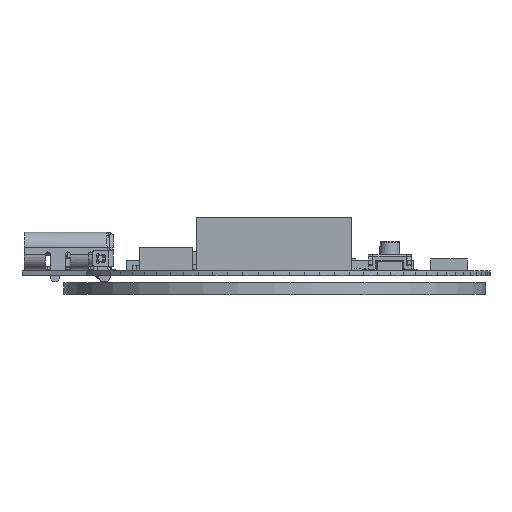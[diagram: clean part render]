
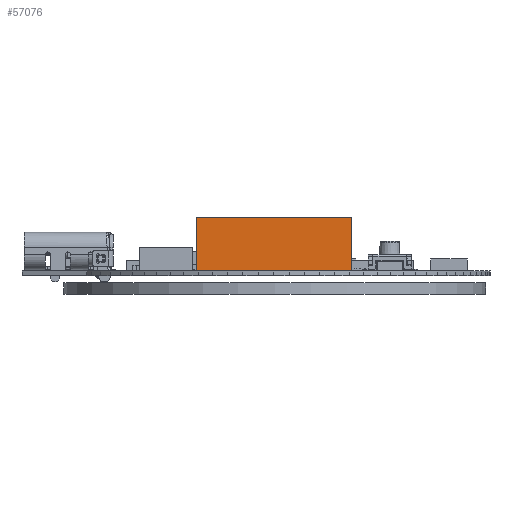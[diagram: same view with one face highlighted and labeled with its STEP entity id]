
A CAD part, left-side view. The second image highlights one B-rep face of the part: STEP entity #57076.
In plain terms, the highlighted planar face has unit normal (-1, 0, 0).
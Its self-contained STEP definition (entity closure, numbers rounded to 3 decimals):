
#57076 = ADVANCED_FACE('',(#57077),#57091,.T.);
#57077 = FACE_BOUND('',#57078,.T.);
#57078 = EDGE_LOOP('',(#57079,#57114,#57142,#57170));
#57079 = ORIENTED_EDGE('',*,*,#57080,.T.);
#57080 = EDGE_CURVE('',#57081,#57083,#57085,.T.);
#57081 = VERTEX_POINT('',#57082);
#57082 = CARTESIAN_POINT('',(-1.5,-6.55,0.));
#57083 = VERTEX_POINT('',#57084);
#57084 = CARTESIAN_POINT('',(-1.5,-6.55,4.5));
#57085 = SURFACE_CURVE('',#57086,(#57090,#57102),.PCURVE_S1.);
#57086 = LINE('',#57087,#57088);
#57087 = CARTESIAN_POINT('',(-1.5,-6.55,0.));
#57088 = VECTOR('',#57089,1.);
#57089 = DIRECTION('',(0.,0.,1.));
#57090 = PCURVE('',#57091,#57096);
#57091 = PLANE('',#57092);
#57092 = AXIS2_PLACEMENT_3D('',#57093,#57094,#57095);
#57093 = CARTESIAN_POINT('',(-1.5,-6.55,0.));
#57094 = DIRECTION('',(-1.,0.,0.));
#57095 = DIRECTION('',(0.,1.,0.));
#57096 = DEFINITIONAL_REPRESENTATION('',(#57097),#57101);
#57097 = LINE('',#57098,#57099);
#57098 = CARTESIAN_POINT('',(0.,0.));
#57099 = VECTOR('',#57100,1.);
#57100 = DIRECTION('',(0.,-1.));
#57101 = ( GEOMETRIC_REPRESENTATION_CONTEXT(2) 
PARAMETRIC_REPRESENTATION_CONTEXT() REPRESENTATION_CONTEXT('2D SPACE',''
  ) );
#57102 = PCURVE('',#57103,#57108);
#57103 = PLANE('',#57104);
#57104 = AXIS2_PLACEMENT_3D('',#57105,#57106,#57107);
#57105 = CARTESIAN_POINT('',(1.5,-6.55,0.));
#57106 = DIRECTION('',(0.,-1.,0.));
#57107 = DIRECTION('',(-1.,0.,0.));
#57108 = DEFINITIONAL_REPRESENTATION('',(#57109),#57113);
#57109 = LINE('',#57110,#57111);
#57110 = CARTESIAN_POINT('',(3.,0.));
#57111 = VECTOR('',#57112,1.);
#57112 = DIRECTION('',(0.,-1.));
#57113 = ( GEOMETRIC_REPRESENTATION_CONTEXT(2) 
PARAMETRIC_REPRESENTATION_CONTEXT() REPRESENTATION_CONTEXT('2D SPACE',''
  ) );
#57114 = ORIENTED_EDGE('',*,*,#57115,.T.);
#57115 = EDGE_CURVE('',#57083,#57116,#57118,.T.);
#57116 = VERTEX_POINT('',#57117);
#57117 = CARTESIAN_POINT('',(-1.5,6.55,4.5));
#57118 = SURFACE_CURVE('',#57119,(#57123,#57130),.PCURVE_S1.);
#57119 = LINE('',#57120,#57121);
#57120 = CARTESIAN_POINT('',(-1.5,-6.55,4.5));
#57121 = VECTOR('',#57122,1.);
#57122 = DIRECTION('',(0.,1.,0.));
#57123 = PCURVE('',#57091,#57124);
#57124 = DEFINITIONAL_REPRESENTATION('',(#57125),#57129);
#57125 = LINE('',#57126,#57127);
#57126 = CARTESIAN_POINT('',(0.,-4.5));
#57127 = VECTOR('',#57128,1.);
#57128 = DIRECTION('',(1.,0.));
#57129 = ( GEOMETRIC_REPRESENTATION_CONTEXT(2) 
PARAMETRIC_REPRESENTATION_CONTEXT() REPRESENTATION_CONTEXT('2D SPACE',''
  ) );
#57130 = PCURVE('',#57131,#57136);
#57131 = PLANE('',#57132);
#57132 = AXIS2_PLACEMENT_3D('',#57133,#57134,#57135);
#57133 = CARTESIAN_POINT('',(-1.5,-6.55,4.5));
#57134 = DIRECTION('',(0.,0.,1.));
#57135 = DIRECTION('',(1.,0.,0.));
#57136 = DEFINITIONAL_REPRESENTATION('',(#57137),#57141);
#57137 = LINE('',#57138,#57139);
#57138 = CARTESIAN_POINT('',(0.,0.));
#57139 = VECTOR('',#57140,1.);
#57140 = DIRECTION('',(0.,1.));
#57141 = ( GEOMETRIC_REPRESENTATION_CONTEXT(2) 
PARAMETRIC_REPRESENTATION_CONTEXT() REPRESENTATION_CONTEXT('2D SPACE',''
  ) );
#57142 = ORIENTED_EDGE('',*,*,#57143,.F.);
#57143 = EDGE_CURVE('',#57144,#57116,#57146,.T.);
#57144 = VERTEX_POINT('',#57145);
#57145 = CARTESIAN_POINT('',(-1.5,6.55,0.));
#57146 = SURFACE_CURVE('',#57147,(#57151,#57158),.PCURVE_S1.);
#57147 = LINE('',#57148,#57149);
#57148 = CARTESIAN_POINT('',(-1.5,6.55,0.));
#57149 = VECTOR('',#57150,1.);
#57150 = DIRECTION('',(0.,0.,1.));
#57151 = PCURVE('',#57091,#57152);
#57152 = DEFINITIONAL_REPRESENTATION('',(#57153),#57157);
#57153 = LINE('',#57154,#57155);
#57154 = CARTESIAN_POINT('',(13.1,0.));
#57155 = VECTOR('',#57156,1.);
#57156 = DIRECTION('',(0.,-1.));
#57157 = ( GEOMETRIC_REPRESENTATION_CONTEXT(2) 
PARAMETRIC_REPRESENTATION_CONTEXT() REPRESENTATION_CONTEXT('2D SPACE',''
  ) );
#57158 = PCURVE('',#57159,#57164);
#57159 = PLANE('',#57160);
#57160 = AXIS2_PLACEMENT_3D('',#57161,#57162,#57163);
#57161 = CARTESIAN_POINT('',(-1.5,6.55,0.));
#57162 = DIRECTION('',(0.,1.,0.));
#57163 = DIRECTION('',(1.,0.,0.));
#57164 = DEFINITIONAL_REPRESENTATION('',(#57165),#57169);
#57165 = LINE('',#57166,#57167);
#57166 = CARTESIAN_POINT('',(0.,0.));
#57167 = VECTOR('',#57168,1.);
#57168 = DIRECTION('',(0.,-1.));
#57169 = ( GEOMETRIC_REPRESENTATION_CONTEXT(2) 
PARAMETRIC_REPRESENTATION_CONTEXT() REPRESENTATION_CONTEXT('2D SPACE',''
  ) );
#57170 = ORIENTED_EDGE('',*,*,#57171,.F.);
#57171 = EDGE_CURVE('',#57081,#57144,#57172,.T.);
#57172 = SURFACE_CURVE('',#57173,(#57177,#57184),.PCURVE_S1.);
#57173 = LINE('',#57174,#57175);
#57174 = CARTESIAN_POINT('',(-1.5,-6.55,0.));
#57175 = VECTOR('',#57176,1.);
#57176 = DIRECTION('',(0.,1.,0.));
#57177 = PCURVE('',#57091,#57178);
#57178 = DEFINITIONAL_REPRESENTATION('',(#57179),#57183);
#57179 = LINE('',#57180,#57181);
#57180 = CARTESIAN_POINT('',(0.,0.));
#57181 = VECTOR('',#57182,1.);
#57182 = DIRECTION('',(1.,0.));
#57183 = ( GEOMETRIC_REPRESENTATION_CONTEXT(2) 
PARAMETRIC_REPRESENTATION_CONTEXT() REPRESENTATION_CONTEXT('2D SPACE',''
  ) );
#57184 = PCURVE('',#57185,#57190);
#57185 = PLANE('',#57186);
#57186 = AXIS2_PLACEMENT_3D('',#57187,#57188,#57189);
#57187 = CARTESIAN_POINT('',(-1.5,-6.55,0.));
#57188 = DIRECTION('',(0.,0.,1.));
#57189 = DIRECTION('',(1.,0.,0.));
#57190 = DEFINITIONAL_REPRESENTATION('',(#57191),#57195);
#57191 = LINE('',#57192,#57193);
#57192 = CARTESIAN_POINT('',(0.,0.));
#57193 = VECTOR('',#57194,1.);
#57194 = DIRECTION('',(0.,1.));
#57195 = ( GEOMETRIC_REPRESENTATION_CONTEXT(2) 
PARAMETRIC_REPRESENTATION_CONTEXT() REPRESENTATION_CONTEXT('2D SPACE',''
  ) );
